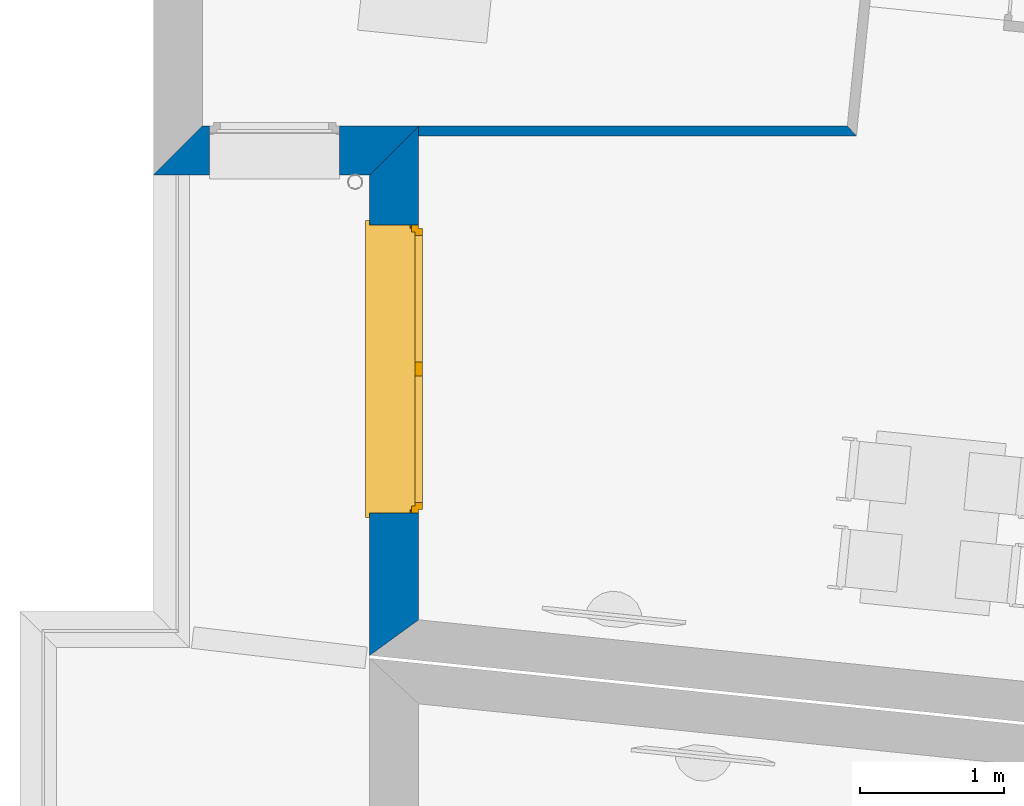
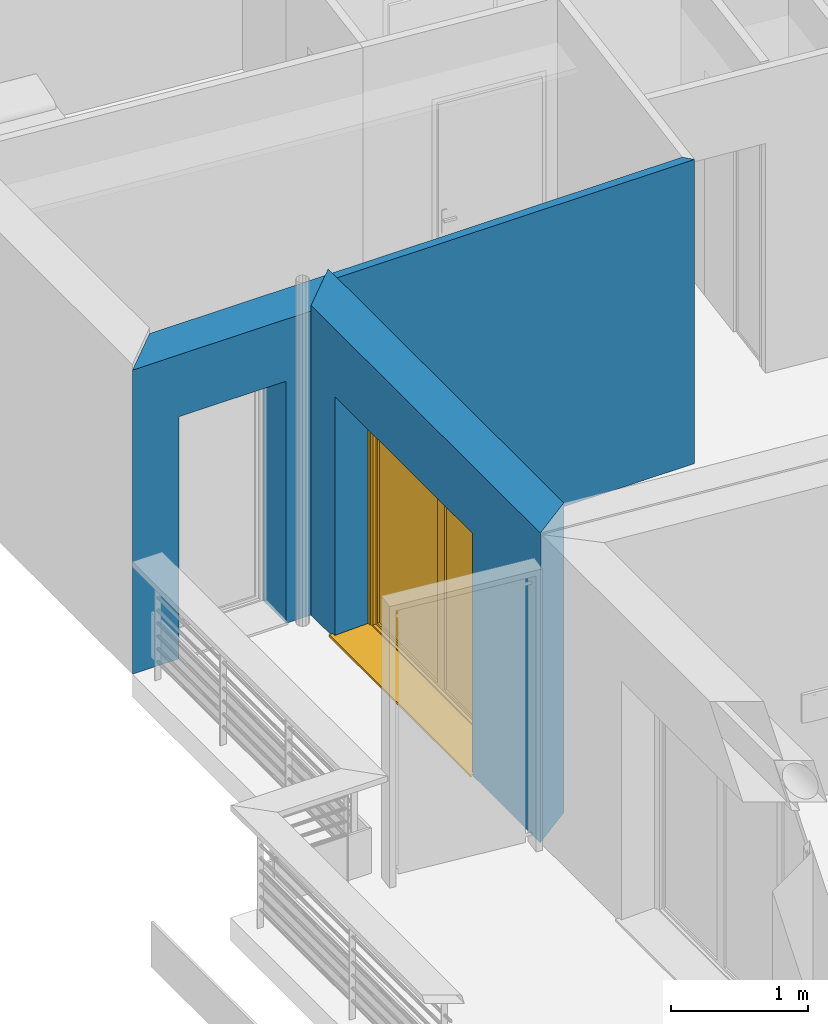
# One storey, part 45 of 164: 3 walls, 1 window, 2 openings.
"""IFC2X3 building model written with IfcOpenShell, lengths in millimetres."""

from ifc_helpers import new_model, entity, si_unit, converted_unit, derived_unit, money_unit, direction, frame, origin_with_axes, place, context, subcontext, project, spatial, polyline, outline, extrude, open_shell, faceted_brep, surface_model, source, transform, mapped, material, layer, layer_set, layer_usage, type_object, element, fill, save


model = new_model("IFC2X3")

# Units and contexts
model_context = context("Model", 3, precision=0.01, world=origin_with_axes(), true_north=direction((0.0, 1.0)))
body_context = subcontext(model_context, "Body", "Model", "MODEL_VIEW")
ifc_project = project(units=[si_unit("LENGTHUNIT", "METRE", prefix="MILLI"), si_unit("AREAUNIT", "SQUARE_METRE"), si_unit("VOLUMEUNIT", "CUBIC_METRE"), converted_unit("PLANEANGLEUNIT", "DEGREE", entity("IfcPlaneAngleMeasure", 0.0174532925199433), si_unit("PLANEANGLEUNIT", "RADIAN"), dimensions=[0, 0, 0, 0, 0, 0, 0]), money_unit("USD"), converted_unit("TIMEUNIT", "Year", entity("IfcTimeMeasure", 31557600.0), si_unit("TIMEUNIT", "SECOND"), dimensions=[0, 0, 1, 0, 0, 0, 0]), si_unit("MASSUNIT", "GRAM", prefix="KILO"), si_unit("THERMODYNAMICTEMPERATUREUNIT", "DEGREE_CELSIUS"), si_unit("LUMINOUSINTENSITYUNIT", "LUMEN"), si_unit("ENERGYUNIT", "JOULE", prefix="MEGA"), derived_unit("THERMALCONDUCTANCEUNIT", [(si_unit("POWERUNIT", "WATT"), 1), (si_unit("LENGTHUNIT", "METRE"), -1), (si_unit("THERMODYNAMICTEMPERATUREUNIT", "KELVIN"), -1)]), derived_unit("SPECIFICHEATCAPACITYUNIT", [(si_unit("ENERGYUNIT", "JOULE"), 1), (si_unit("MASSUNIT", "GRAM", prefix="KILO"), -1), (si_unit("THERMODYNAMICTEMPERATUREUNIT", "KELVIN"), -1)]), derived_unit("MASSDENSITYUNIT", [(si_unit("MASSUNIT", "GRAM", prefix="KILO"), 1), (si_unit("VOLUMEUNIT", "CUBIC_METRE"), -1)])], contexts=[model_context])

# Site, building, storey
site_placement = place(None, origin_with_axes())
site = spatial("IfcSite", under=ifc_project, at=site_placement, Name="Site", CompositionType="ELEMENT")
building_placement = place(site_placement, origin_with_axes())
building = spatial("IfcBuilding", under=site, at=building_placement, Name="Bâtiment", CompositionType="ELEMENT")
storey_placement = place(building_placement, frame((0.0, 0.0, 5750.0), z_axis=(0.0, 0.0, 1.0), x_axis=(1.0, 0.0, 0.0)))
storey = spatial("IfcBuildingStorey", under=building, at=storey_placement, Name="Etage1", CompositionType="ELEMENT", Elevation=5750.0)

# Wall
ifc_material_1 = material(Name="Hachure solide 268963992")
ifc_layer_1 = layer(ifc_material_1, 70.0, ventilated="UNKNOWN")
ifc_layer_set_1 = layer_set([ifc_layer_1], Name="Cloison 70 0826278243")
ifc_layer_usage_1 = layer_usage(ifc_layer_set_1, "AXIS2", "NEGATIVE", 70.0)
wall_type_1 = type_object("IfcWallType", Name="Cloison 70 0826278243 70", PredefinedType="NOTDEFINED")
wall_1_placement = place(storey_placement, frame((2221518.482243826, -617167.5058083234, 0.0), z_axis=(0.0, 0.0, 1.0), x_axis=(-1.0, 0.0, 0.0)))
element("IfcWallStandardCase", 1, at=wall_1_placement, inside=storey, type_object=wall_type_1, material=ifc_layer_usage_1, Name="Mur-149", context=body_context, shape_type="SweptSolid", body=[
    extrude(outline(polyline([(70.36103416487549, 0.0), (3044.248898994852, 0.0), (3044.248898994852, 70.00000000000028), (7.118646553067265, 70.00000000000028), (70.36103416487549, 0.0)])), origin_with_axes(), (0.0, 0.0, 1.0), 2700.0),
])

# Wall, opening
ifc_material_2 = material(Name="Parpaing 312445824")
ifc_layer_2 = layer(ifc_material_2, 180.0, ventilated="UNKNOWN")
ifc_material_3 = material(Name="Isolant styromousse 301821074")
ifc_layer_3 = layer(ifc_material_3, 160.0, ventilated="UNKNOWN")
ifc_layer_set_2 = layer_set([ifc_layer_2, ifc_layer_3], Name="isol int 18+16 0018356637")
ifc_layer_usage_2 = layer_usage(ifc_layer_set_2, "AXIS2", "POSITIVE", 0.0)
wall_type_2 = type_object("IfcWallType", Name="isol int 18+16 0018356637 340", PredefinedType="NOTDEFINED")
wall_2_placement = place(storey_placement, frame((2216634.23334483, -617507.5058083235, 0.0), z_axis=(0.0, 0.0, 1.0), x_axis=(1.0, 0.0, 0.0)))
wall_2 = element("IfcWallStandardCase", 2, at=wall_2_placement, inside=storey, type_object=wall_type_2, material=ifc_layer_usage_2, Name="Mur-142", context=body_context, shape_type="SweptSolid", body=[
    extrude(outline(polyline([(0.0, 0.0), (1500.000000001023, 0.0), (1840.000000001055, 340.0000000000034), (340.0000000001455, 340.0000000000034), (0.0, 0.0)])), origin_with_axes(), (0.0, 0.0, 1.0), 2700.0),
])
opening_1_placement = place(wall_2_placement, frame((840.0000000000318, 0.0, 0.0), z_axis=(0.0, 0.0, 1.0), x_axis=(1.0, 0.0, 0.0)))
element("IfcOpeningElement", 3, at=opening_1_placement, cuts=wall_2, Name="Fen-146", context=body_context, shape_type="Brep", body=[
    faceted_brep([(-450.0000000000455, 341.0000000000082, 2150.0), (449.9999999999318, 341.0000000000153, 2150.0), (450.0000000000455, 341.0000000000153, 0.0), (-450.0000000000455, 341.0000000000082, 0.0), (-450.0000000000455, 480.0000000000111, 2150.0), (449.9999999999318, 480.0000000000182, 2150.0), (449.9999999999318, 290.0000000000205, 2150.0), (450.0000000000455, 290.0000000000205, 0.0), (450.0000000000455, -0.9999999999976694, 0.0), (-450.0000000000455, -1.000000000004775, 0.0), (-450.0000000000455, 290.0000000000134, 0.0), (-450.0000000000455, 290.0000000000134, 2150.0), (-450.0000000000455, 280.0000000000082, 2150.0), (-450.0000000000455, 280.0000000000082, 2350.0), (-450.0000000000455, 480.0000000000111, 2350.0), (449.9999999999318, 480.0000000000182, 2350.0), (449.9999999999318, 280.0000000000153, 2350.0), (449.9999999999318, 280.0000000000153, 2150.0), (450.0000000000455, -0.9999999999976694, 2150.0), (-450.0000000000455, -1.000000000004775, 2150.0)], [[[0, 1, 2, 3]], [[1, 0, 4, 5]], [[1, 6, 7, 2]], [[7, 8, 9, 10, 3, 2]], [[11, 0, 3, 10]], [[0, 11, 12, 13, 14, 4]], [[15, 5, 4, 14]], [[6, 1, 5, 15, 16, 17]], [[6, 17, 18, 8, 7]], [[19, 9, 8, 18]], [[12, 11, 10, 9, 19]], [[12, 17, 16, 13]], [[16, 15, 14, 13]], [[17, 12, 19, 18]]]),
])

# Wall, opening, window
ifc_layer_usage_3 = layer_usage(ifc_layer_set_2, "AXIS2", "POSITIVE", 0.0)
wall_3_placement = place(storey_placement, frame((2218134.233344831, -617507.5058083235, 0.0), z_axis=(0.0, 0.0, 1.0), x_axis=(0.0, -1.0, 0.0)))
wall_3 = element("IfcWallStandardCase", 4, at=wall_3_placement, inside=storey, type_object=wall_type_2, material=ifc_layer_usage_3, Name="Mur-143", context=body_context, shape_type="SweptSolid", body=[
    extrude(outline(polyline([(0.0, 0.0), (3334.290085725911, 0.0), (3087.400102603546, 340.0000000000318), (-340.0000000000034, 340.0000000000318), (0.0, 0.0)])), origin_with_axes(), (0.0, 0.0, 1.0), 2750.0),
])
opening_2_placement = place(wall_3_placement, frame((1346.722835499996, 0.0, 0.0), z_axis=(0.0, 0.0, 1.0), x_axis=(1.0, 0.0, 0.0)))
opening_2 = element("IfcOpeningElement", 5, at=opening_2_placement, cuts=wall_3, Name="Fen-207", context=body_context, shape_type="Brep", body=[
    faceted_brep([(-1000.0, 290.0000000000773, 2150.0), (-1000.0, 341.0000000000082, 2150.0), (-1000.0, 341.0000000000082, 0.0), (-1000.0, 290.0000000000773, 0.0), (-1000.0, 280.0000000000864, 2150.0), (-1000.0, 280.0000000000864, 2400.0), (-1000.0, 530.0000000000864, 2400.0), (-1000.0, 530.0000000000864, 2150.0), (1000.0, 341.0000000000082, 2150.0), (1000.0, 341.0000000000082, 0.0), (1000.0, 290.0000000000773, 0.0), (1000.0, -0.9999999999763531, 0.0), (-1000.0, -0.9999999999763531, 0.0), (-1000.0, -0.9999999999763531, 2150.0), (1000.0, 280.0000000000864, 2150.0), (1000.0, 280.0000000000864, 2400.0), (1000.0, 530.0000000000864, 2400.0), (1000.0, 530.0000000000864, 2150.0), (1000.0, 290.0000000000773, 2150.0), (1000.0, -0.9999999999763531, 2150.0)], [[[0, 1, 2, 3]], [[1, 0, 4, 5, 6, 7]], [[1, 8, 9, 2]], [[10, 11, 12, 3, 2, 9]], [[4, 0, 3, 12, 13]], [[4, 14, 15, 5]], [[15, 16, 6, 5]], [[16, 17, 7, 6]], [[8, 1, 7, 17]], [[8, 18, 10, 9]], [[18, 14, 19, 11, 10]], [[13, 12, 11, 19]], [[14, 4, 13, 19]], [[18, 8, 17, 16, 15, 14]]]),
])
window_style = type_object("IfcWindowStyle", Name="Fenêtre châssis double variable 27", ConstructionType="NOTDEFINED", OperationType="DOUBLE_PANEL_VERTICAL", ParameterTakesPrecedence=False, Sizeable=False)
shared_shape = source(origin_with_axes(), body_context, "Body", "SurfaceModel", [
    surface_model("IfcShellBasedSurfaceModel", [(1000.0, -51.00000000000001, 40.00000000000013), (1000.0, -51.00000000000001, 50.00000000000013), (-1000.0, -51.00000000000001, 50.0), (-1000.0, -51.00000000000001, 40.0), (1030.0, -369.9999999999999, 28.96551724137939), (1030.0, -339.9999999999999, 30.00324289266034), (1000.0, -339.9999999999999, 30.00324289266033), (-1000.0, -339.9999999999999, 30.00324289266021), (-1030.0, -339.9999999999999, 30.00324289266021), (-1030.0, -369.9999999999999, 28.96551724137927), (1030.0, -369.9999999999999, 8.965517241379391), (-1030.0, -369.9999999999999, 8.965517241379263), (1030.0, -359.9999999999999, 18.96551724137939), (-1030.0, -359.9999999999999, 18.96551724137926)], [open_shell([[[0, 1, 2, 3]], [[4, 5, 6, 0, 3, 7, 8, 9]], [[10, 4, 9, 11]], [[12, 10, 11, 13]]])]),
    faceted_brep([(-1000.0, -60.00000000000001, 2400.0), (-997.0, -60.00000000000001, 2400.0), (-997.0, 190.0, 2400.0), (-1000.0, 190.0, 2400.0), (-1000.0, -60.00000000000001, 2150.0), (-997.0, -60.00000000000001, 2150.0), (-997.0, 190.0, 2150.0), (-1000.0, 190.0, 2150.0)], [[[0, 1, 2, 3]], [[4, 5, 1, 0]], [[1, 5, 6, 2]], [[3, 2, 6, 7]], [[0, 3, 7, 4]], [[7, 6, 5, 4]]]),
    faceted_brep([(997.0000000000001, -59.99999999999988, 2400.0), (1000.0, -59.99999999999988, 2400.0), (1000.0, 190.0000000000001, 2400.0), (997.0000000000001, 190.0000000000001, 2400.0), (997.0000000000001, -59.99999999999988, 2150.0), (1000.0, -59.99999999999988, 2150.0), (1000.0, 190.0000000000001, 2150.0), (997.0000000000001, 190.0000000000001, 2150.0)], [[[0, 1, 2, 3]], [[4, 5, 1, 0]], [[1, 5, 6, 2]], [[3, 2, 6, 7]], [[0, 3, 7, 4]], [[7, 6, 5, 4]]]),
    faceted_brep([(-997.0, -60.0, 2150.0), (997.0, -59.99999999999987, 2150.0), (997.0, -59.99999999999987, 2400.0), (-997.0, -60.0, 2400.0), (-997.0, -56.99999999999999, 2150.0), (997.0, -56.99999999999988, 2150.0), (997.0, -56.99999999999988, 2397.0), (997.0, 187.0000000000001, 2397.0), (997.0, 187.0000000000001, 2153.0), (997.0, -37.99999999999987, 2153.0), (997.0, -37.99999999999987, 2150.0), (997.0, 190.0000000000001, 2150.0), (997.0, 190.0000000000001, 2400.0), (-997.0, 190.0, 2400.0), (-997.0, 190.0, 2150.0), (-997.0, -37.99999999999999, 2150.0), (-997.0, -37.99999999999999, 2153.0), (-997.0, 187.0, 2153.0), (-997.0, 187.0, 2397.0), (-997.0, -56.99999999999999, 2397.0)], [[[0, 1, 2, 3]], [[4, 5, 1, 0]], [[1, 5, 6, 7, 8, 9, 10, 11, 12, 2]], [[3, 2, 12, 13]], [[0, 3, 13, 14, 15, 16, 17, 18, 19, 4]], [[19, 6, 5, 4]], [[18, 7, 6, 19]], [[17, 8, 7, 18]], [[16, 9, 8, 17]], [[15, 10, 9, 16]], [[14, 11, 10, 15]], [[13, 12, 11, 14]]]),
    faceted_brep([(-994.0, -40.37442957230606, 2256.419644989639), (-994.0, -41.99999999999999, 2275.0), (-994.0, -40.37442957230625, 2293.580355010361), (-994.0, -35.54711042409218, 2311.596155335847), (-994.0, -27.66471820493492, 2328.5), (-994.0, -16.96675541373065, 2343.77827423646), (-994.0, -3.778274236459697, 2356.96675541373), (-994.0, 11.5, 2367.664718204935), (-994.0, 28.40384466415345, 2375.547110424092), (-994.0, 46.41964498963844, 2380.374429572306), (-994.0, 64.99999999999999, 2382.0), (-994.0, 83.58035501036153, 2380.374429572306), (-994.0, 101.5961553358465, 2375.547110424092), (-994.0, 118.5, 2367.664718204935), (-994.0, 133.7782742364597, 2356.96675541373), (-994.0, 146.9667554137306, 2343.77827423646), (-994.0, 157.6647182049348, 2328.5), (-994.0, 165.5471104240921, 2311.596155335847), (-994.0, 170.3744295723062, 2293.580355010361), (-994.0, 171.9999999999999, 2275.0), (-994.0, 170.3744295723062, 2256.419644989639), (-994.0, 165.5471104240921, 2238.403844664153), (-994.0, 157.6647182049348, 2221.5), (-994.0, 146.9667554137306, 2206.22172576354), (-994.0, 133.7782742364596, 2193.033244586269), (-994.0, 118.4999999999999, 2182.335281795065), (-994.0, 101.5961553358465, 2174.452889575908), (-994.0, 83.58035501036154, 2169.625570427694), (-994.0, 65.00000000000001, 2168.0), (-994.0, 46.4196449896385, 2169.625570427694), (-994.0, 28.40384466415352, 2174.452889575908), (-994.0, 11.50000000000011, 2182.335281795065), (-994.0, -3.778274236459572, 2193.033244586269), (-994.0, -16.9667554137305, 2206.22172576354), (-994.0, -27.66471820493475, 2221.5), (-994.0, -35.54711042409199, 2238.403844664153), (994.0, -40.37442957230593, 2256.419644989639), (994.0, -41.99999999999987, 2275.0), (994.0, -40.37442957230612, 2293.580355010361), (994.0, -35.54711042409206, 2311.596155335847), (994.0, -27.6647182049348, 2328.5), (994.0, -16.96675541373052, 2343.77827423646), (994.0, -3.778274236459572, 2356.96675541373), (994.0, 11.50000000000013, 2367.664718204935), (994.0, 28.40384466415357, 2375.547110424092), (994.0, 46.41964498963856, 2380.374429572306), (994.0, 65.00000000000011, 2382.0), (994.0, 83.58035501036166, 2380.374429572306), (994.0, 101.5961553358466, 2375.547110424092), (994.0, 118.5000000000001, 2367.664718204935), (994.0, 133.7782742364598, 2356.96675541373), (994.0, 146.9667554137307, 2343.77827423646), (994.0, 157.664718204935, 2328.5), (994.0, 165.5471104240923, 2311.596155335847), (994.0, 170.3744295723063, 2293.580355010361), (994.0, 172.0, 2275.0), (994.0, 170.3744295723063, 2256.419644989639), (994.0, 165.5471104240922, 2238.403844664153), (994.0, 157.6647182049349, 2221.5), (994.0, 146.9667554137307, 2206.22172576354), (994.0, 133.7782742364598, 2193.033244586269), (994.0, 118.5000000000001, 2182.335281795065), (994.0, 101.5961553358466, 2174.452889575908), (994.0, 83.58035501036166, 2169.625570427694), (994.0, 65.00000000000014, 2168.0), (994.0, 46.41964498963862, 2169.625570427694), (994.0, 28.40384466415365, 2174.452889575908), (994.0, 11.50000000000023, 2182.335281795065), (994.0, -3.778274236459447, 2193.033244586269), (994.0, -16.96675541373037, 2206.22172576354), (994.0, -27.66471820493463, 2221.5), (994.0, -35.54711042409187, 2238.403844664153)], [[[0, 1, 2, 3, 4, 5, 6, 7, 8, 9, 10, 11, 12, 13, 14, 15, 16, 17, 18, 19, 20, 21, 22, 23, 24, 25, 26, 27, 28, 29, 30, 31, 32, 33, 34, 35]], [[0, 36, 37, 1]], [[1, 37, 38, 2]], [[2, 38, 39, 3]], [[3, 39, 40, 4]], [[4, 40, 41, 5]], [[5, 41, 42, 6]], [[6, 42, 43, 7]], [[7, 43, 44, 8]], [[8, 44, 45, 9]], [[9, 45, 46, 10]], [[10, 46, 47, 11]], [[11, 47, 48, 12]], [[12, 48, 49, 13]], [[13, 49, 50, 14]], [[14, 50, 51, 15]], [[15, 51, 52, 16]], [[16, 52, 53, 17]], [[17, 53, 54, 18]], [[18, 54, 55, 19]], [[19, 55, 56, 20]], [[20, 56, 57, 21]], [[21, 57, 58, 22]], [[22, 58, 59, 23]], [[23, 59, 60, 24]], [[24, 60, 61, 25]], [[25, 61, 62, 26]], [[26, 62, 63, 27]], [[27, 63, 64, 28]], [[28, 64, 65, 29]], [[29, 65, 66, 30]], [[30, 66, 67, 31]], [[31, 67, 68, 32]], [[32, 68, 69, 33]], [[33, 69, 70, 34]], [[34, 70, 71, 35]], [[35, 71, 36, 0]], [[36, 71, 70, 69, 68, 67, 66, 65, 64, 63, 62, 61, 60, 59, 58, 57, 56, 55, 54, 53, 52, 51, 50, 49, 48, 47, 46, 45, 44, 43, 42, 41, 40, 39, 38, 37]]]),
    faceted_brep([(1000.0, -34.99999999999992, 30.0), (1000.0, -34.99999999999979, 2150.0), (1000.0, -59.99999999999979, 2150.0), (1000.0, -59.99999999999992, 30.0), (975.0, -34.99999999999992, 30.0), (975.0, -34.99999999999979, 2150.0), (975.0, -37.99999999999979, 2150.0), (997.0, -37.99999999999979, 2150.0), (997.0, -56.99999999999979, 2150.0), (975.0, -56.99999999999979, 2150.0), (975.0, -59.99999999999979, 2150.0), (975.0, -59.99999999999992, 30.0), (975.0, -56.99999999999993, 30.0), (997.0, -56.99999999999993, 30.0), (997.0, -37.99999999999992, 30.0), (975.0, -37.99999999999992, 30.0)], [[[0, 1, 2, 3]], [[4, 5, 1, 0]], [[1, 5, 6, 7, 8, 9, 10, 2]], [[3, 2, 10, 11]], [[0, 3, 11, 12, 13, 14, 15, 4]], [[15, 6, 5, 4]], [[14, 7, 6, 15]], [[13, 8, 7, 14]], [[12, 9, 8, 13]], [[11, 10, 9, 12]]]),
    faceted_brep([(-1000.0, -34.99999999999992, 30.0), (-1000.0, -59.99999999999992, 30.0), (-1000.0, -59.99999999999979, 2150.0), (-1000.0, -34.99999999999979, 2150.0), (-975.0, -34.99999999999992, 30.0), (-975.0, -37.99999999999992, 30.0), (-997.0, -37.99999999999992, 30.0), (-997.0, -56.99999999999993, 30.0), (-975.0, -56.99999999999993, 30.0), (-975.0, -59.99999999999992, 30.0), (-975.0, -59.99999999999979, 2150.0), (-975.0, -56.99999999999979, 2150.0), (-997.0, -56.99999999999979, 2150.0), (-997.0, -37.99999999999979, 2150.0), (-975.0, -37.99999999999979, 2150.0), (-975.0, -34.99999999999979, 2150.0)], [[[0, 1, 2, 3]], [[0, 4, 5, 6, 7, 8, 9, 1]], [[1, 9, 10, 2]], [[3, 2, 10, 11, 12, 13, 14, 15]], [[4, 0, 3, 15]], [[5, 4, 15, 14]], [[6, 5, 14, 13]], [[7, 6, 13, 12]], [[8, 7, 12, 11]], [[9, 8, 11, 10]]]),
    faceted_brep([(997.0, -46.66666666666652, 2275.0), (997.0, -46.66666666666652, 2266.666666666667), (-997.0, -46.66666666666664, 2266.666666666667), (-997.0, -46.66666666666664, 2275.0), (997.0, -51.66666666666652, 2275.0), (997.0, -51.66666666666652, 2266.666666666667), (997.0, -49.99999999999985, 2250.0), (997.0, -44.99999999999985, 2250.0), (-997.0, -44.99999999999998, 2250.0), (-997.0, -49.99999999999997, 2250.0), (-997.0, -51.66666666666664, 2266.666666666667), (-997.0, -51.66666666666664, 2275.0)], [[[0, 1, 2, 3]], [[4, 5, 6, 7, 1, 0]], [[2, 1, 7, 8]], [[3, 2, 8, 9, 10, 11]], [[3, 11, 4, 0]], [[10, 5, 4, 11]], [[9, 6, 5, 10]], [[8, 7, 6, 9]]]),
    faceted_brep([(-997.0, -44.99999999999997, 2250.0), (997.0, -44.99999999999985, 2250.0), (997.0, -46.66666666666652, 2233.333333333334), (-997.0, -46.66666666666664, 2233.333333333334), (-997.0, -49.99999999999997, 2250.0), (997.0, -49.99999999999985, 2250.0), (997.0, -51.66666666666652, 2233.333333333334), (997.0, -51.66666666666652, 2216.666666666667), (997.0, -49.99999999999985, 2200.0), (997.0, -44.99999999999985, 2200.0), (997.0, -46.66666666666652, 2216.666666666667), (-997.0, -46.66666666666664, 2216.666666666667), (-997.0, -44.99999999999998, 2200.0), (-997.0, -49.99999999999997, 2200.0), (-997.0, -51.66666666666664, 2216.666666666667), (-997.0, -51.66666666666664, 2233.333333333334)], [[[0, 1, 2, 3]], [[4, 5, 1, 0]], [[1, 5, 6, 7, 8, 9, 10, 2]], [[3, 2, 10, 11]], [[0, 3, 11, 12, 13, 14, 15, 4]], [[15, 6, 5, 4]], [[14, 7, 6, 15]], [[13, 8, 7, 14]], [[12, 9, 8, 13]], [[11, 10, 9, 12]]]),
    faceted_brep([(-997.0, -44.99999999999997, 2200.0), (997.0, -44.99999999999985, 2200.0), (997.0, -46.66666666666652, 2183.333333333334), (-997.0, -46.66666666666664, 2183.333333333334), (-997.0, -49.99999999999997, 2200.0), (997.0, -49.99999999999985, 2200.0), (997.0, -51.66666666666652, 2183.333333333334), (997.0, -51.66666666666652, 2166.666666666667), (997.0, -49.99999999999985, 2150.000000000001), (997.0, -44.99999999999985, 2150.000000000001), (997.0, -46.66666666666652, 2166.666666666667), (-997.0, -46.66666666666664, 2166.666666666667), (-997.0, -44.99999999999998, 2150.000000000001), (-997.0, -49.99999999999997, 2150.000000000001), (-997.0, -51.66666666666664, 2166.666666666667), (-997.0, -51.66666666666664, 2183.333333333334)], [[[0, 1, 2, 3]], [[4, 5, 1, 0]], [[1, 5, 6, 7, 8, 9, 10, 2]], [[3, 2, 10, 11]], [[0, 3, 11, 12, 13, 14, 15, 4]], [[15, 6, 5, 4]], [[14, 7, 6, 15]], [[13, 8, 7, 14]], [[12, 9, 8, 13]], [[11, 10, 9, 12]]]),
    faceted_brep([(-975.0, 0.0, 2100.0), (-1000.0, 0.0, 2100.0), (-1000.0, -50.00000000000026, 2100.0), (-950.0, -50.00000000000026, 2100.0), (-950.0, -25.00000000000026, 2100.0), (-975.0, -25.00000000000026, 2100.0), (-975.0, 0.0, 50.00000000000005), (-1000.0, 0.0, 50.00000000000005), (-1000.0, -50.00000000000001, 50.00000000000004), (-950.0, -50.00000000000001, 50.00000000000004), (-950.0, -25.00000000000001, 50.00000000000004), (-975.0, -25.00000000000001, 50.00000000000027)], [[[0, 1, 2, 3, 4, 5]], [[6, 7, 1, 0]], [[1, 7, 8, 2]], [[2, 8, 9, 3]], [[4, 3, 9, 10]], [[10, 11, 5, 4]], [[5, 11, 6, 0]], [[11, 10, 9, 8, 7, 6]]]),
    faceted_brep([(950.0, -25.00000000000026, 2100.0), (950.0, -50.00000000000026, 2100.0), (1000.0, -50.00000000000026, 2100.0), (1000.0, 0.0, 2100.0), (975.0, 0.0, 2100.0), (975.0, -25.00000000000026, 2100.0), (950.0, -25.00000000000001, 50.00000000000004), (950.0, -50.00000000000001, 50.00000000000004), (1000.0, -50.00000000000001, 50.00000000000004), (1000.0, 0.0, 50.00000000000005), (975.0, 0.0, 50.00000000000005), (975.0, -25.00000000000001, 50.00000000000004)], [[[0, 1, 2, 3, 4, 5]], [[6, 7, 1, 0]], [[8, 2, 1, 7]], [[9, 3, 2, 8]], [[4, 3, 9, 10]], [[10, 11, 5, 4]], [[5, 11, 6, 0]], [[11, 10, 9, 8, 7, 6]]]),
    faceted_brep([(950.0, -25.00000000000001, 50.00000000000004), (950.0, -50.00000000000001, 50.00000000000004), (1000.0, -50.00000000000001, 50.00000000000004), (1000.0, 0.0, 50.00000000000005), (975.0, 0.0, 50.00000000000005), (975.0, -25.00000000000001, 50.00000000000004), (-950.0, -25.00000000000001, 50.00000000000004), (-950.0, -50.00000000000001, 50.00000000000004), (-1000.0, -50.00000000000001, 50.00000000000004), (-1000.0, -50.0, 0.0), (1000.0, -50.0, 0.0), (1000.0, 0.0, 0.0), (-975.0, 0.0, 24.99999999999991), (975.0, 0.0, 24.99999999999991), (-1000.0, 0.0, 0.0), (-1000.0, 0.0, 50.00000000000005), (-975.0, 0.0, 50.00000000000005), (975.0, -25.0, 24.99999999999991), (-975.0, -25.0, 24.99999999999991), (-975.0, -25.00000000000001, 50.00000000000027)], [[[0, 1, 2, 3, 4, 5]], [[6, 7, 1, 0]], [[8, 9, 10, 2, 1, 7]], [[11, 3, 2, 10]], [[12, 13, 4, 3, 11, 14, 15, 16]], [[13, 17, 5, 4]], [[5, 17, 18, 19, 6, 0]], [[19, 16, 15, 8, 7, 6]], [[15, 14, 9, 8]], [[14, 11, 10, 9]], [[12, 18, 17, 13]], [[19, 18, 12, 16]]]),
    faceted_brep([(-975.0, 0.0, 2100.0), (-1000.0, 0.0, 2100.0), (-1000.0, 0.0, 2150.0), (1000.0, 0.0, 2150.0), (1000.0, 0.0, 2100.0), (975.0, 0.0, 2100.0), (975.0, 0.0, 2125.0), (-975.0, 0.0, 2125.0), (-975.0, -25.00000000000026, 2100.0), (-950.0, -25.00000000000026, 2100.0), (-950.0, -50.00000000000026, 2100.0), (-1000.0, -50.00000000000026, 2100.0), (-1000.0, -50.00000000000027, 2150.0), (1000.0, -50.00000000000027, 2150.0), (1000.0, -50.00000000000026, 2100.0), (975.0, -25.00000000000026, 2100.0), (950.0, -50.00000000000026, 2100.0), (950.0, -25.00000000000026, 2100.0), (975.0, -25.00000000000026, 2125.0), (-975.0, -25.00000000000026, 2125.0)], [[[0, 1, 2, 3, 4, 5, 6, 7]], [[8, 9, 10, 11, 1, 0]], [[2, 1, 11, 12]], [[3, 2, 12, 13]], [[4, 3, 13, 14]], [[15, 5, 4, 14, 16, 17]], [[5, 15, 18, 6]], [[6, 18, 19, 7]], [[7, 19, 8, 0]], [[17, 9, 8, 19, 18, 15]], [[17, 16, 10, 9]], [[14, 13, 12, 11, 10, 16]]]),
    faceted_brep([(-925.0, -25.00000000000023, 2075.0), (-925.0, 24.99999999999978, 2075.0), (-975.0, 24.99999999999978, 2075.0), (-975.0, -25.00000000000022, 2075.0), (-925.0, -24.99999999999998, 75.00000000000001), (-925.0, 25.00000000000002, 75.00000000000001), (-975.0, 25.00000000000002, 75.00000000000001), (-975.0, -24.99999999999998, 75.00000000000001)], [[[0, 1, 2, 3]], [[4, 5, 1, 0]], [[1, 5, 6, 2]], [[3, 2, 6, 7]], [[0, 3, 7, 4]], [[7, 6, 5, 4]]]),
    faceted_brep([(-49.99999999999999, -25.00000000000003, 75.00000000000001), (-49.99999999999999, 24.99999999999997, 75.00000000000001), (0.0, 24.99999999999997, 75.00000000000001), (0.0, -25.00000000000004, 75.00000000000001), (-49.99999999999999, -25.00000000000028, 2075.0), (-49.99999999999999, 24.99999999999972, 2075.0), (0.0, 24.99999999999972, 2075.0), (0.0, -25.00000000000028, 2075.0)], [[[0, 1, 2, 3]], [[4, 5, 1, 0]], [[1, 5, 6, 2]], [[3, 2, 6, 7]], [[0, 3, 7, 4]], [[7, 6, 5, 4]]]),
    faceted_brep([(0.0, -25.00000000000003, 25.0), (0.0, 24.99999999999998, 25.00000000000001), (0.0, 24.99999999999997, 75.00000000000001), (0.0, -25.00000000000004, 75.00000000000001), (-975.0, -24.99999999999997, 25.0), (-975.0, 25.00000000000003, 25.00000000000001), (-975.0, 25.00000000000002, 75.00000000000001), (-925.0, 25.00000000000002, 75.00000000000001), (-49.99999999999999, 24.99999999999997, 75.00000000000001), (-49.99999999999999, -25.00000000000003, 75.00000000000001), (-925.0, -24.99999999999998, 75.00000000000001), (-975.0, -24.99999999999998, 75.00000000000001)], [[[0, 1, 2, 3]], [[4, 5, 1, 0]], [[1, 5, 6, 7, 8, 2]], [[3, 2, 8, 9]], [[0, 3, 9, 10, 11, 4]], [[11, 6, 5, 4]], [[10, 7, 6, 11]], [[9, 8, 7, 10]]]),
    faceted_brep([(-975.0, -25.00000000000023, 2125.0), (-975.0, 24.99999999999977, 2125.0), (-975.0, 24.99999999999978, 2075.0), (-975.0, -25.00000000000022, 2075.0), (0.0, -25.00000000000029, 2125.0), (0.0, 24.99999999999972, 2125.0), (0.0, 24.99999999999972, 2075.0), (-49.99999999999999, 24.99999999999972, 2075.0), (-925.0, 24.99999999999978, 2075.0), (-925.0, -25.00000000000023, 2075.0), (-49.99999999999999, -25.00000000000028, 2075.0), (0.0, -25.00000000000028, 2075.0)], [[[0, 1, 2, 3]], [[4, 5, 1, 0]], [[1, 5, 6, 7, 8, 2]], [[3, 2, 8, 9]], [[0, 3, 9, 10, 11, 4]], [[11, 6, 5, 4]], [[10, 7, 6, 11]], [[9, 8, 7, 10]]]),
    surface_model("IfcShellBasedSurfaceModel", [(-925.0, -10.00000000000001, 75.00000000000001), (-49.99999999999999, -10.00000000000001, 75.00000000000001), (-49.99999999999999, -10.00000000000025, 2075.0), (-925.0, -10.00000000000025, 2075.0)], [open_shell([[[0, 1, 2, 3]]])]),
    surface_model("IfcShellBasedSurfaceModel", [(-925.0, 9.999999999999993, 75.00000000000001), (-925.0, 9.99999999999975, 2075.0), (-49.99999999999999, 9.99999999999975, 2075.0), (-49.99999999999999, 9.999999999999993, 75.00000000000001)], [open_shell([[[0, 1, 2, 3]]])]),
    faceted_brep([(49.99999999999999, -25.00000000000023, 2075.0), (49.99999999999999, 24.99999999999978, 2075.0), (0.0, 24.99999999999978, 2075.0), (0.0, -25.00000000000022, 2075.0), (49.99999999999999, -24.99999999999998, 75.00000000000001), (49.99999999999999, 25.00000000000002, 75.00000000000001), (0.0, 25.00000000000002, 75.00000000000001), (0.0, -24.99999999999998, 75.00000000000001)], [[[0, 1, 2, 3]], [[4, 5, 1, 0]], [[1, 5, 6, 2]], [[3, 2, 6, 7]], [[0, 3, 7, 4]], [[7, 6, 5, 4]]]),
    faceted_brep([(925.0, -25.00000000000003, 75.00000000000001), (925.0, 24.99999999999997, 75.00000000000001), (975.0, 24.99999999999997, 75.00000000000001), (975.0, -25.00000000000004, 75.00000000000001), (925.0, -25.00000000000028, 2075.0), (925.0, 24.99999999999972, 2075.0), (975.0, 24.99999999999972, 2075.0), (975.0, -25.00000000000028, 2075.0)], [[[0, 1, 2, 3]], [[4, 5, 1, 0]], [[1, 5, 6, 2]], [[3, 2, 6, 7]], [[0, 3, 7, 4]], [[7, 6, 5, 4]]]),
    faceted_brep([(975.0, -25.00000000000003, 25.0), (975.0, 24.99999999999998, 25.00000000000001), (975.0, 24.99999999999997, 75.00000000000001), (975.0, -25.00000000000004, 75.00000000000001), (0.0, -24.99999999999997, 25.0), (0.0, 25.00000000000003, 25.00000000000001), (0.0, 25.00000000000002, 75.00000000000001), (49.99999999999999, 25.00000000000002, 75.00000000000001), (925.0, 24.99999999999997, 75.00000000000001), (925.0, -25.00000000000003, 75.00000000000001), (49.99999999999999, -24.99999999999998, 75.00000000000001), (0.0, -24.99999999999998, 75.00000000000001)], [[[0, 1, 2, 3]], [[4, 5, 1, 0]], [[1, 5, 6, 7, 8, 2]], [[3, 2, 8, 9]], [[0, 3, 9, 10, 11, 4]], [[11, 6, 5, 4]], [[10, 7, 6, 11]], [[9, 8, 7, 10]]]),
    faceted_brep([(0.0, -25.00000000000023, 2125.0), (0.0, 24.99999999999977, 2125.0), (0.0, 24.99999999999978, 2075.0), (0.0, -25.00000000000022, 2075.0), (975.0, -25.00000000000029, 2125.0), (975.0, 24.99999999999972, 2125.0), (975.0, 24.99999999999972, 2075.0), (925.0, 24.99999999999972, 2075.0), (49.99999999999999, 24.99999999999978, 2075.0), (49.99999999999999, -25.00000000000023, 2075.0), (925.0, -25.00000000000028, 2075.0), (975.0, -25.00000000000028, 2075.0)], [[[0, 1, 2, 3]], [[4, 5, 1, 0]], [[1, 5, 6, 7, 8, 2]], [[3, 2, 8, 9]], [[0, 3, 9, 10, 11, 4]], [[11, 6, 5, 4]], [[10, 7, 6, 11]], [[9, 8, 7, 10]]]),
    surface_model("IfcShellBasedSurfaceModel", [(49.99999999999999, -10.00000000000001, 75.00000000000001), (925.0, -10.00000000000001, 75.00000000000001), (925.0, -10.00000000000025, 2075.0), (49.99999999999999, -10.00000000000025, 2075.0)], [open_shell([[[0, 1, 2, 3]]])]),
    surface_model("IfcShellBasedSurfaceModel", [(49.99999999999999, 9.999999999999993, 75.00000000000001), (49.99999999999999, 9.99999999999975, 2075.0), (925.0, 9.99999999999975, 2075.0), (925.0, 9.999999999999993, 75.00000000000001)], [open_shell([[[0, 1, 2, 3]]])]),
])
window_placement = place(opening_2_placement, frame((-1000.000000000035, 0.0, 0.0), z_axis=(0.0, 0.0, 1.0), x_axis=(1.0, 0.0, 0.0)))
window = element("IfcWindow", 6, at=window_placement, inside=storey, type_object=window_style, Name="Fen-207", OverallHeight=2150.0, OverallWidth=2000.0, context=body_context, shape_type="MappedRepresentation", body=[
    mapped(shared_shape, transform((1000.0, 340.0000000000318, 0.0))),
])
fill(opening_2, window)

save(model, "model.ifc")
